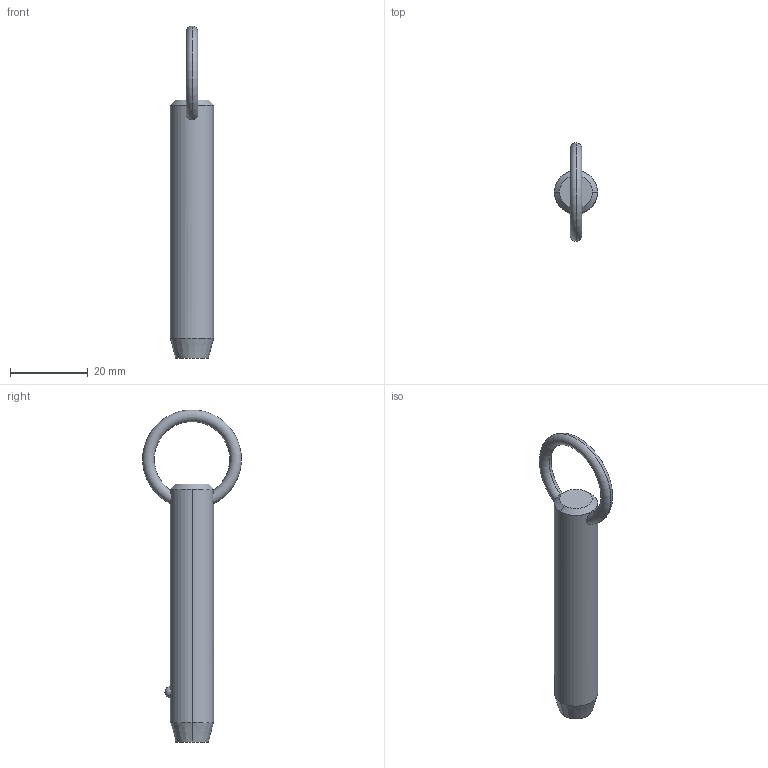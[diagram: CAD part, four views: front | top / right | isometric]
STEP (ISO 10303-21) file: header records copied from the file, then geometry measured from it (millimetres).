
FILE_DESCRIPTION (( 'STEP AP203' ), '1' );
FILE_NAME ('P1250.050-180.step', '2019-07-29T20:30:49', ( '' ), ( '' ), 'SwSTEP 2.0', 'SolidWorks 2017', '' );
FILE_SCHEMA (( 'CONFIG_CONTROL_DESIGN' ));
Length unit declared in the file: millimetre
Products named in the file (1): P1250.050-180
Bounding box: 11.1 x 25.32 x 85.25 mm (x, y, z)
Volume: 6698.5 mm3; surface area: 2964.6 mm2
Topology: 1 solids, 1 shells, 12 faces, 28 edges, 17 vertices
Faces by surface type: cone 4, torus 2, sphere 2, cylinder 2, plane 2
Entity records: 523 total; most frequent: CARTESIAN_POINT 190, DIRECTION 56, ORIENTED_EDGE 48, AXIS2_PLACEMENT_3D 25, EDGE_CURVE 24, VERTEX_POINT 15, EDGE_LOOP 15, FACE_OUTER_BOUND 12
